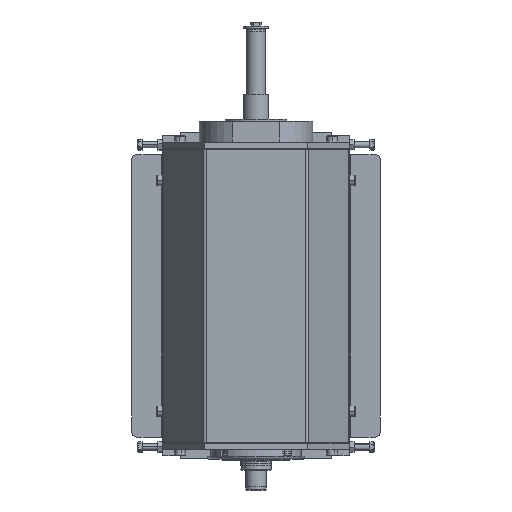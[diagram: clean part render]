
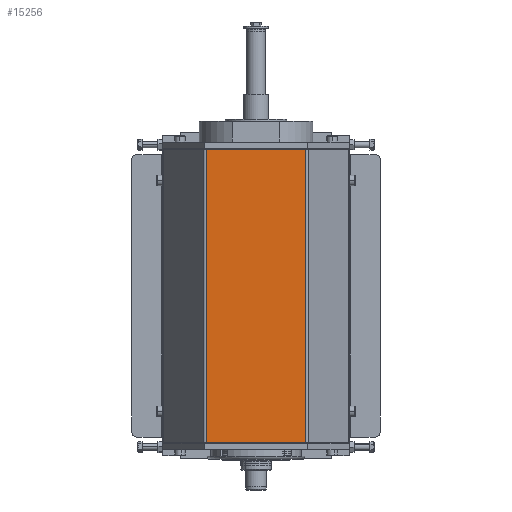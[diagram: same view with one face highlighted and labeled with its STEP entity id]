
A CAD part, front view. The second image highlights one B-rep face of the part: STEP entity #15256.
In plain terms, the highlighted planar face has unit normal (0, -1, 0).
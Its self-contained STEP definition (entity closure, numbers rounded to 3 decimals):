
#2154 = VERTEX_POINT ( 'NONE', #28875 ) ;
#3900 = DIRECTION ( 'NONE',  ( 1., 0., 0. ) ) ;
#6578 = DIRECTION ( 'NONE',  ( 0., 0., -1. ) ) ;
#7360 = PLANE ( 'NONE',  #13176 ) ;
#7489 = ORIENTED_EDGE ( 'NONE', *, *, #31297, .F. ) ;
#7602 = EDGE_LOOP ( 'NONE', ( #24018, #7489, #17323, #11112 ) ) ;
#7767 = CARTESIAN_POINT ( 'NONE',  ( -50., 0., 0. ) ) ;
#8126 = LINE ( 'NONE', #9387, #29066 ) ;
#8332 = FACE_OUTER_BOUND ( 'NONE', #7602, .T. ) ;
#9243 = VECTOR ( 'NONE', #6578, 1000. ) ;
#9387 = CARTESIAN_POINT ( 'NONE',  ( -50., 0., 283. ) ) ;
#10102 = DIRECTION ( 'NONE',  ( 0., 1., 0. ) ) ;
#10455 = VERTEX_POINT ( 'NONE', #32039 ) ;
#11112 = ORIENTED_EDGE ( 'NONE', *, *, #20745, .T. ) ;
#13176 = AXIS2_PLACEMENT_3D ( 'NONE', #23776, #10102, #29232 ) ;
#14249 = DIRECTION ( 'NONE',  ( 0., 0., -1. ) ) ;
#14835 = CARTESIAN_POINT ( 'NONE',  ( -48.268, 0., 0. ) ) ;
#15256 = ADVANCED_FACE ( 'NONE', ( #8332 ), #7360, .F. ) ;
#15634 = LINE ( 'NONE', #33359, #30176 ) ;
#17323 = ORIENTED_EDGE ( 'NONE', *, *, #34945, .F. ) ;
#17443 = CARTESIAN_POINT ( 'NONE',  ( 48.268, 0., 0. ) ) ;
#20745 = EDGE_CURVE ( 'NONE', #2154, #23967, #15634, .T. ) ;
#23776 = CARTESIAN_POINT ( 'NONE',  ( -50., 0., 283. ) ) ;
#23967 = VERTEX_POINT ( 'NONE', #14835 ) ;
#24018 = ORIENTED_EDGE ( 'NONE', *, *, #27726, .T. ) ;
#26103 = CARTESIAN_POINT ( 'NONE',  ( 48.268, 0., 283. ) ) ;
#26359 = LINE ( 'NONE', #26103, #9243 ) ;
#26795 = DIRECTION ( 'NONE',  ( 1., 0., 0. ) ) ;
#27433 = VERTEX_POINT ( 'NONE', #17443 ) ;
#27726 = EDGE_CURVE ( 'NONE', #23967, #27433, #30439, .T. ) ;
#28699 = VECTOR ( 'NONE', #26795, 1000. ) ;
#28875 = CARTESIAN_POINT ( 'NONE',  ( -48.268, 0., 283. ) ) ;
#29066 = VECTOR ( 'NONE', #3900, 1000. ) ;
#29232 = DIRECTION ( 'NONE',  ( 0., 0., 1. ) ) ;
#30176 = VECTOR ( 'NONE', #14249, 1000. ) ;
#30439 = LINE ( 'NONE', #7767, #28699 ) ;
#31297 = EDGE_CURVE ( 'NONE', #10455, #27433, #26359, .T. ) ;
#32039 = CARTESIAN_POINT ( 'NONE',  ( 48.268, 0., 283. ) ) ;
#33359 = CARTESIAN_POINT ( 'NONE',  ( -48.268, 0., 283. ) ) ;
#34945 = EDGE_CURVE ( 'NONE', #2154, #10455, #8126, .T. ) ;
